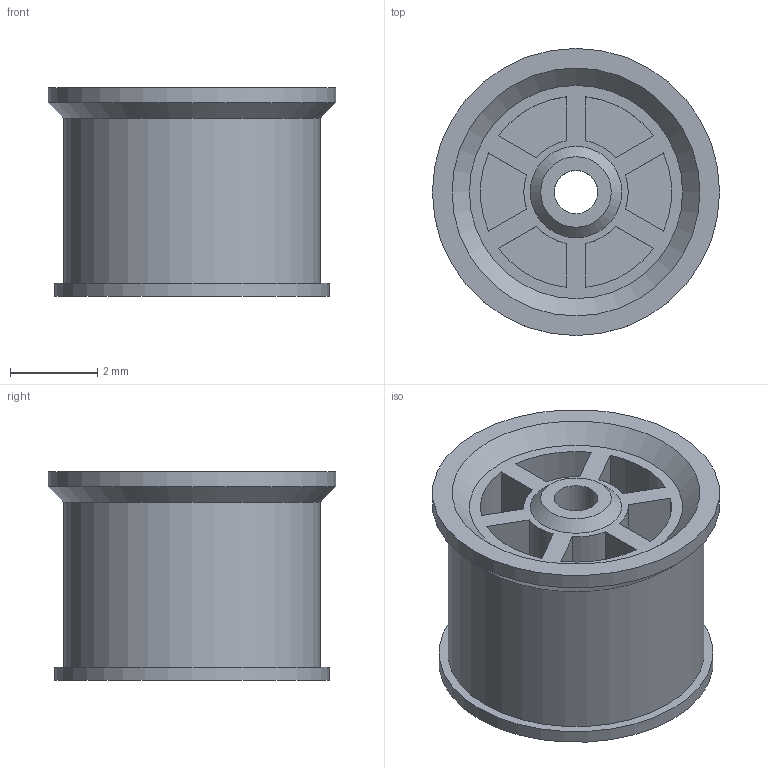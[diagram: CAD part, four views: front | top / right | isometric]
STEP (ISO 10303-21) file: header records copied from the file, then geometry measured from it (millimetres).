
FILE_DESCRIPTION(('Open CASCADE Model'),'2;1');
FILE_NAME('Open CASCADE Shape Model','2026-10-09T16:33:03',('Author'),( 'Open CASCADE'),'Open CASCADE STEP processor 8.0','build123d', 'Unknown');
FILE_SCHEMA(('AUTOMOTIVE_DESIGN { 1 0 10303 214 1 1 1 1 }'));
Length unit declared in the file: millimetre
Products named in the file (1): COMPOUND
Bounding box: 6.6 x 6.6 x 4.8 mm (x, y, z)
Volume: 114.6 mm3; surface area: 212.5 mm2
Topology: 1 solids, 1 shells, 42 faces, 91 edges, 60 vertices
Faces by surface type: plane 23, cylinder 16, cone 3
Full cylindrical faces by diameter (mm): 1 x1, 5.9 x1, 6.3 x1, 6.6 x1
Entity records: 2366 total; most frequent: CARTESIAN_POINT 479, DIRECTION 357, ORIENTED_EDGE 182, PCURVE 182, DEFINITIONAL_REPRESENTATION 182, LINE 178, VECTOR 178, EDGE_CURVE 91
